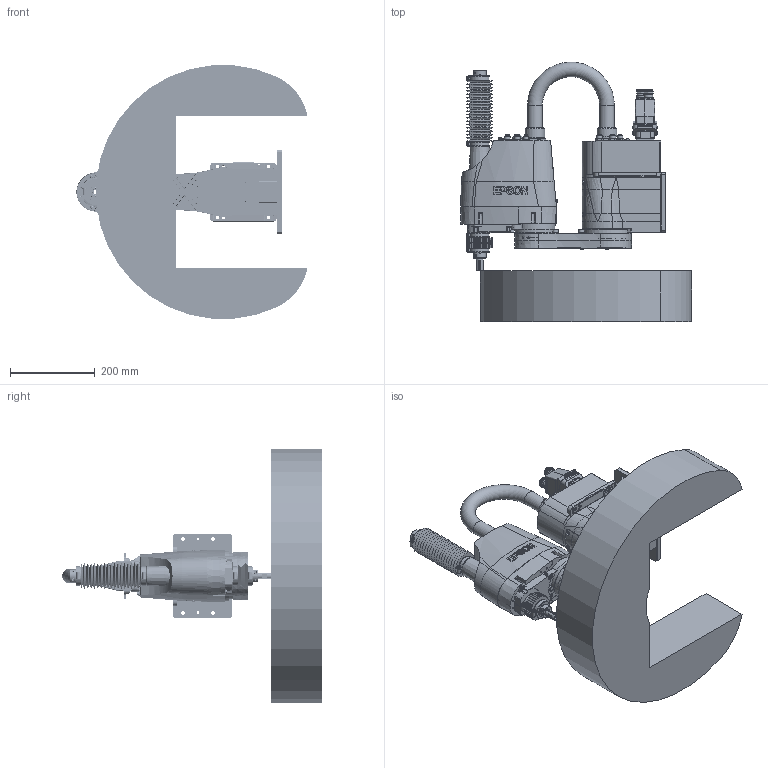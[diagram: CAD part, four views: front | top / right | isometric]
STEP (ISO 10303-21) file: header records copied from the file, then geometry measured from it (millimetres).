
FILE_DESCRIPTION( ( 'STEP AP214' ), '1' );
FILE_NAME( 'C:/Users/9607552/Desktop/GX4-A/GX4-A301CMS-W.stp', '2023-04-07T04:48:02', ( '' ), ( '' ), ' ', 'PARTsolutions', ' ' );
FILE_SCHEMA( ( 'AUTOMOTIVE_DESIGN { 1 0 10303 214 1 1 1 1 }' ) );
Length unit declared in the file: millimetre
Products named in the file (10): GX4-A301CMS-W; _A301CM-b; _A301SM_J1_ARM; _A251S-a; _A301SM_CONDUIT; _A251C; _A251C-long; _A251C-short; _Straight; _GX4-28_WS
Assembly tree (9 placements, depth 2):
  GX4-A301CMS-W
    _A301CM-b
    _A301SM_J1_ARM
    _A251S-a
    _A301SM_CONDUIT
    _A251C
    _A251C-long
    _A251C-short
    _Straight
    _GX4-28_WS
Bounding box: 544.9 x 612.31 x 597.72 mm (x, y, z)
Volume: 26665589.3 mm3; surface area: 1526662.6 mm2
Topology: 9 solids, 9 shells, 3882 faces, 9706 edges, 6318 vertices
Faces by surface type: plane 2253, cylinder 1014, cone 421, torus 104, bspline 89, sphere 1
Full cylindrical faces by diameter (mm): 1 x30, 1.13 x55, 1.18 x55, 2.013 x4, 2.459 x4, 2.5 x16, 3 x46, 3.2 x3, 3.242 x1, 3.3 x32, 3.4 x32, 3.5 x12, 4 x12, 4.5 x20, 4.8 x8, 4.917 x4, 5.34 x8, 5.4 x10, 5.5 x24, 5.6 x4, 5.68 x4, 6 x7, 6.5 x12, 6.647 x7, 6.8 x4, 7 x37, 7.647 x4, 8 x12, 9 x8, 9.2 x4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
Entity records: 147532 total; most frequent: CARTESIAN_POINT 29154, ORIENTED_EDGE 17276, DIRECTION 17107, EDGE_CURVE 8638, AXIS2_PLACEMENT_3D 6516, VERTEX_POINT 6166, EDGE_LOOP 5465, FACE_OUTER_BOUND 4526
